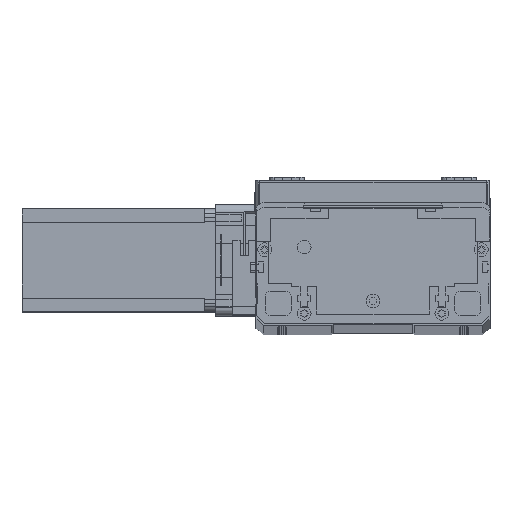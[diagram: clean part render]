
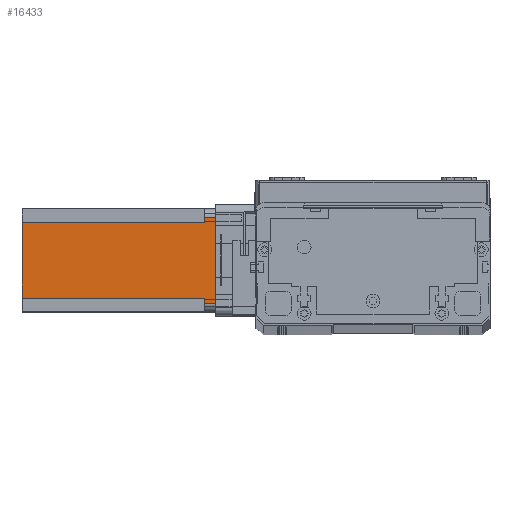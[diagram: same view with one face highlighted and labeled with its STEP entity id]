
A CAD part, top view. The second image highlights one B-rep face of the part: STEP entity #16433.
In plain terms, the highlighted planar face has unit normal (0, 0, 1) as drawn and (0, -1, 0) by its records, which use the part's own axes.
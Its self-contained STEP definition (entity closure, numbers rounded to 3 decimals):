
#1588 = LINE ( 'NONE', #23658, #18281 ) ;
#2070 = CARTESIAN_POINT ( 'NONE',  ( 55., 0., -112.5 ) ) ;
#2895 = LINE ( 'NONE', #18361, #25149 ) ;
#3027 = VERTEX_POINT ( 'NONE', #19310 ) ;
#3209 = VERTEX_POINT ( 'NONE', #10514 ) ;
#3260 = VERTEX_POINT ( 'NONE', #12713 ) ;
#3676 = DIRECTION ( 'NONE',  ( 0., -1., 0. ) ) ;
#5058 = ORIENTED_EDGE ( 'NONE', *, *, #5141, .F. ) ;
#5141 = EDGE_CURVE ( 'NONE', #3209, #7899, #12951, .T. ) ;
#5295 = VECTOR ( 'NONE', #15135, 1000. ) ;
#5978 = ORIENTED_EDGE ( 'NONE', *, *, #10310, .T. ) ;
#6207 = ORIENTED_EDGE ( 'NONE', *, *, #15788, .F. ) ;
#6677 = DIRECTION ( 'NONE',  ( -1., 0., 0. ) ) ;
#7084 = CARTESIAN_POINT ( 'NONE',  ( 8., 0., -6.5 ) ) ;
#7566 = FACE_OUTER_BOUND ( 'NONE', #14348, .T. ) ;
#7607 = LINE ( 'NONE', #22738, #12787 ) ;
#7899 = VERTEX_POINT ( 'NONE', #25611 ) ;
#8608 = ORIENTED_EDGE ( 'NONE', *, *, #14305, .T. ) ;
#9117 = VERTEX_POINT ( 'NONE', #12340 ) ;
#10257 = PLANE ( 'NONE',  #25399 ) ;
#10310 = EDGE_CURVE ( 'NONE', #3027, #9117, #24564, .T. ) ;
#10393 = VECTOR ( 'NONE', #26807, 1000. ) ;
#10514 = CARTESIAN_POINT ( 'NONE',  ( 8., 0., -6.5 ) ) ;
#10565 = VERTEX_POINT ( 'NONE', #20923 ) ;
#10830 = LINE ( 'NONE', #26345, #11525 ) ;
#11525 = VECTOR ( 'NONE', #24343, 1000. ) ;
#11858 = LINE ( 'NONE', #2070, #5295 ) ;
#12340 = CARTESIAN_POINT ( 'NONE',  ( 52., 0., -112.5 ) ) ;
#12713 = CARTESIAN_POINT ( 'NONE',  ( 55., 0., -6.5 ) ) ;
#12787 = VECTOR ( 'NONE', #22648, 1000. ) ;
#12951 = LINE ( 'NONE', #7084, #23595 ) ;
#13413 = EDGE_CURVE ( 'NONE', #15118, #10565, #1588, .T. ) ;
#13648 = CARTESIAN_POINT ( 'NONE',  ( 0., 0., -112.5 ) ) ;
#14043 = CARTESIAN_POINT ( 'NONE',  ( 52., 0., -112.5 ) ) ;
#14215 = EDGE_CURVE ( 'NONE', #24682, #3260, #10830, .T. ) ;
#14240 = ORIENTED_EDGE ( 'NONE', *, *, #22619, .F. ) ;
#14305 = EDGE_CURVE ( 'NONE', #15118, #7899, #2895, .T. ) ;
#14348 = EDGE_LOOP ( 'NONE', ( #15234, #14726, #15181, #8608, #5058, #14240, #5978, #6207 ) ) ;
#14726 = ORIENTED_EDGE ( 'NONE', *, *, #20948, .T. ) ;
#15118 = VERTEX_POINT ( 'NONE', #22574 ) ;
#15135 = DIRECTION ( 'NONE',  ( 0., 0., 1. ) ) ;
#15181 = ORIENTED_EDGE ( 'NONE', *, *, #13413, .F. ) ;
#15234 = ORIENTED_EDGE ( 'NONE', *, *, #14215, .T. ) ;
#15788 = EDGE_CURVE ( 'NONE', #24682, #9117, #16100, .T. ) ;
#16100 = LINE ( 'NONE', #14043, #10393 ) ;
#16433 = ADVANCED_FACE ( 'NONE', ( #7566 ), #10257, .T. ) ;
#16644 = CARTESIAN_POINT ( 'NONE',  ( 0., 0., -112.5 ) ) ;
#17851 = DIRECTION ( 'NONE',  ( 1., 0., 0. ) ) ;
#18281 = VECTOR ( 'NONE', #27824, 1000. ) ;
#18361 = CARTESIAN_POINT ( 'NONE',  ( 5., 0., -112.5 ) ) ;
#18910 = DIRECTION ( 'NONE',  ( 0., 0., -1. ) ) ;
#19310 = CARTESIAN_POINT ( 'NONE',  ( 8., 0., -112.5 ) ) ;
#20923 = CARTESIAN_POINT ( 'NONE',  ( 55., 0., 0. ) ) ;
#20948 = EDGE_CURVE ( 'NONE', #3260, #10565, #11858, .T. ) ;
#22574 = CARTESIAN_POINT ( 'NONE',  ( 5., 0., 0. ) ) ;
#22619 = EDGE_CURVE ( 'NONE', #3027, #3209, #7607, .T. ) ;
#22648 = DIRECTION ( 'NONE',  ( 0., 0., 1. ) ) ;
#22738 = CARTESIAN_POINT ( 'NONE',  ( 8., 0., -112.5 ) ) ;
#23595 = VECTOR ( 'NONE', #6677, 1000. ) ;
#23658 = CARTESIAN_POINT ( 'NONE',  ( 0., 0., 0. ) ) ;
#23898 = VECTOR ( 'NONE', #17851, 1000. ) ;
#24343 = DIRECTION ( 'NONE',  ( 1., 0., 0. ) ) ;
#24564 = LINE ( 'NONE', #13648, #23898 ) ;
#24682 = VERTEX_POINT ( 'NONE', #24979 ) ;
#24979 = CARTESIAN_POINT ( 'NONE',  ( 52., 0., -6.5 ) ) ;
#25149 = VECTOR ( 'NONE', #26785, 1000. ) ;
#25399 = AXIS2_PLACEMENT_3D ( 'NONE', #16644, #3676, #18910 ) ;
#25611 = CARTESIAN_POINT ( 'NONE',  ( 5., 0., -6.5 ) ) ;
#26345 = CARTESIAN_POINT ( 'NONE',  ( 52., 0., -6.5 ) ) ;
#26785 = DIRECTION ( 'NONE',  ( 0., 0., -1. ) ) ;
#26807 = DIRECTION ( 'NONE',  ( 0., 0., -1. ) ) ;
#27824 = DIRECTION ( 'NONE',  ( 1., 0., 0. ) ) ;
